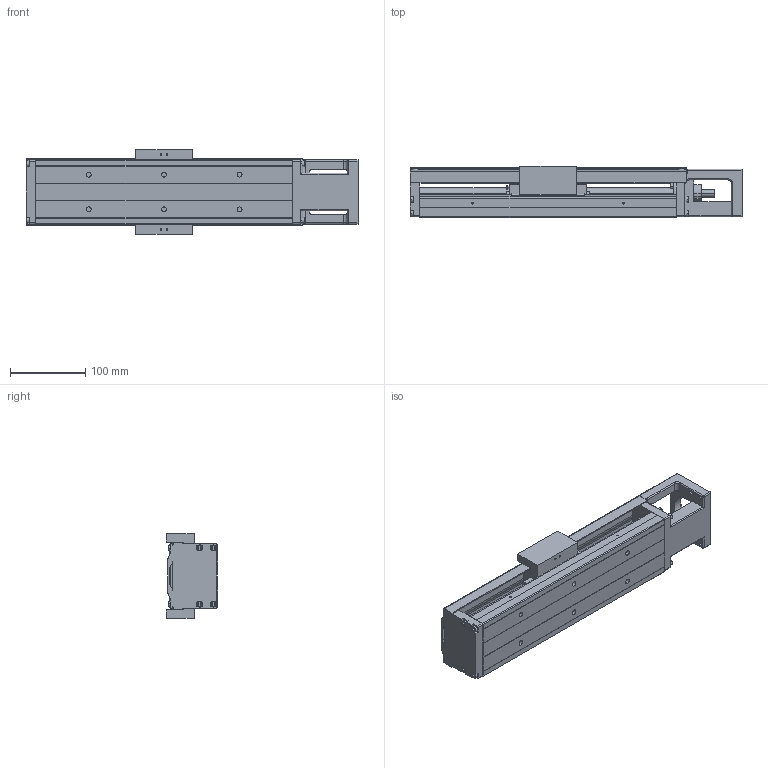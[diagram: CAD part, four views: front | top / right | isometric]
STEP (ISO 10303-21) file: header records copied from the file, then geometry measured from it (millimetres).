
FILE_DESCRIPTION (( 'STEP AP203' ), '1' );
FILE_NAME ('HKK86D10C-340A1-F0C.stp', '2021-11-26T03:36:42', ( '' ), ( '' ), 'SwSTEP 2.0', 'SolidWorks 2018', '' );
FILE_SCHEMA (( 'CONFIG_CONTROL_DESIGN' ));
Length unit declared in the file: millimetre
Products named in the file (1): HKK86D10C-340A1-F0C
Bounding box: 440 x 68 x 112 mm (x, y, z)
Volume: 1251152.1 mm3; surface area: 308360.1 mm2
Topology: 2 solids, 11 shells, 791 faces, 2077 edges, 1316 vertices
Faces by surface type: plane 439, cylinder 257, cone 70, sphere 9, bspline 8, torus 8
Entity records: 24673 total; most frequent: CARTESIAN_POINT 4965, DIRECTION 4111, ORIENTED_EDGE 4038, EDGE_CURVE 2019, VECTOR 1381, LINE 1381, AXIS2_PLACEMENT_3D 1365, VERTEX_POINT 1312
